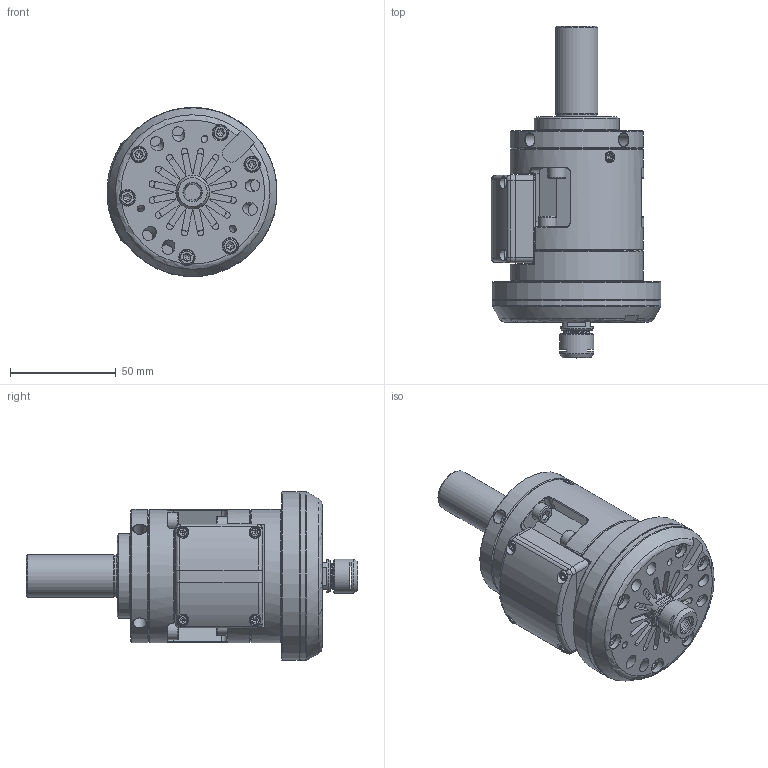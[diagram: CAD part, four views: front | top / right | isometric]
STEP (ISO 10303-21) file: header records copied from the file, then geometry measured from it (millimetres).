
FILE_DESCRIPTION (( 'STEP AP214' ), '1' );
FILE_NAME ('TJS HPC V4 ST20.STEP', '2025-06-10T14:20:59', ( 'pc' ), ( '' ), 'SwSTEP 2.0', 'SolidWorks 2024', '' );
FILE_SCHEMA (( 'AUTOMOTIVE_DESIGN' ));
Length unit declared in the file: millimetre
Products named in the file (1): TJS HPC V4 ST20
Bounding box: 80.35 x 156.9 x 79.82 mm (x, y, z)
Volume: 200898.1 mm3; surface area: 101269 mm2
Topology: 31 solids, 31 shells, 1482 faces, 3496 edges, 2131 vertices
Faces by surface type: plane 748, cylinder 357, cone 226, torus 97, bspline 54
Full cylindrical faces by diameter (mm): 2.5 x6, 3 x3, 3.3 x12, 4 x6, 4.2 x11, 4.3 x8, 4.5 x5, 5 x22, 5.5 x3, 5.8 x3, 6 x11, 6.4 x4, 6.5 x1, 7 x6, 7.4 x6, 7.5 x1, 7.65 x1, 8 x3, 8.5 x6, 10 x1, 11.21 x1, 11.3 x1, 11.8 x1, 12 x1, 12.2 x1, 12.3 x1, 13 x1, 13.2 x1, 13.5 x1, 15.5 x1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
Entity records: 49469 total; most frequent: CARTESIAN_POINT 17276, DIRECTION 6613, ORIENTED_EDGE 6062, EDGE_CURVE 3031, AXIS2_PLACEMENT_3D 2472, VERTEX_POINT 2025, EDGE_LOOP 2008, FACE_OUTER_BOUND 1682
